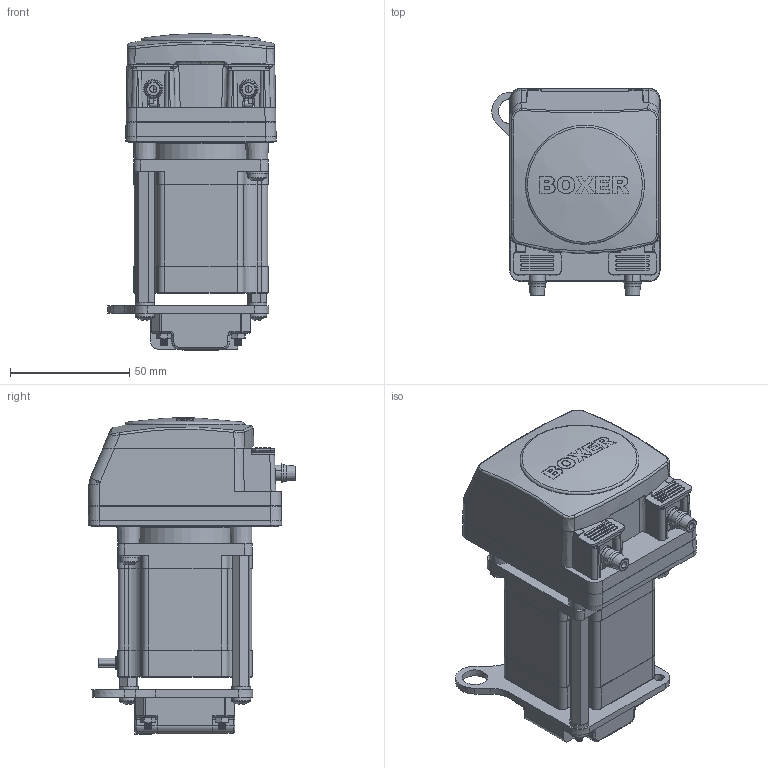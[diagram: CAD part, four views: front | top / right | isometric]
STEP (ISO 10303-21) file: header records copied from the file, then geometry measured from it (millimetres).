
FILE_DESCRIPTION (( 'STEP AP203' ), '1' );
FILE_NAME ('SOLID_15KU_NEMA23+A2.STEP', '2023-03-08T09:21:27', ( '' ), ( '' ), 'SwSTEP 2.0', 'SolidWorks 2021', '' );
FILE_SCHEMA (( 'CONFIG_CONTROL_DESIGN' ));
Products named in the file (1): SOLID_15KU_NEMA23+A2
Bounding box: 70.6 x 87.06 x 132.8 mm (x, y, z)
Volume: 283451.6 mm3; surface area: 108339.6 mm2
Topology: 29 solids, 29 shells, 2444 faces, 5969 edges, 3635 vertices
Faces by surface type: plane 987, cone 570, cylinder 543, bspline 167, torus 114, sphere 63
Full cylindrical faces by diameter (mm): 1 x2, 1.6 x4, 2 x6, 2.5 x7, 2.6 x4, 3 x123, 3.2 x2, 3.3 x4, 3.4 x4, 3.5 x5, 4 x4, 4.1 x1, 4.2 x2, 4.5 x3, 5 x4, 5.087 x4, 5.5 x5, 6 x1, 6.5 x4, 8 x6, 38 x1, 50 x1
Entity records: 76738 total; most frequent: CARTESIAN_POINT 23329, DIRECTION 10885, ORIENTED_EDGE 10708, EDGE_CURVE 5354, AXIS2_PLACEMENT_3D 4287, VERTEX_POINT 3560, EDGE_LOOP 3154, FACE_OUTER_BOUND 2666
